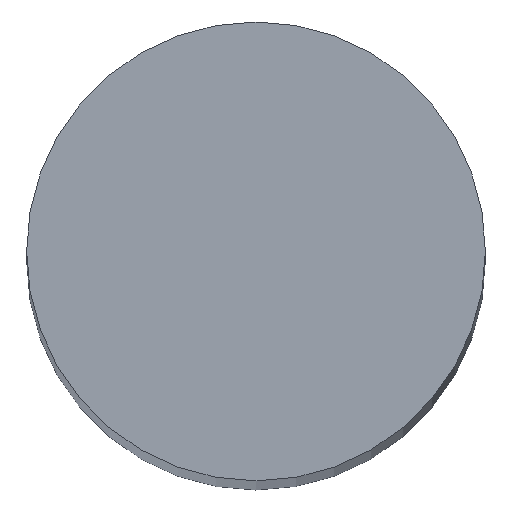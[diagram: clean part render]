
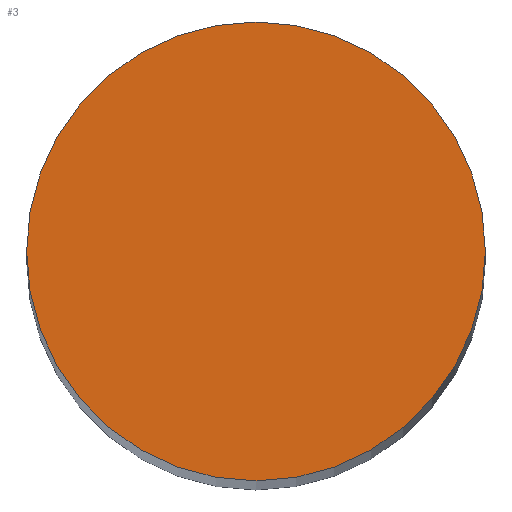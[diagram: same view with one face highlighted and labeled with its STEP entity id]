
A CAD part, top view. The second image highlights one B-rep face of the part: STEP entity #3.
In plain terms, the highlighted planar face has unit normal (0, 0, 1).
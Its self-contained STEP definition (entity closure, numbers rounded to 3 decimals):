
#3 = ADVANCED_FACE ( 'NONE', ( #8 ), #97, .T. ) ;
#8 = FACE_OUTER_BOUND ( 'NONE', #39, .T. ) ;
#9 = CIRCLE ( 'NONE', #58, 6. ) ;
#17 = CIRCLE ( 'NONE', #65, 6. ) ;
#39 = EDGE_LOOP ( 'NONE', ( #43, #46 ) ) ;
#43 = ORIENTED_EDGE ( 'NONE', *, *, #53, .T. ) ;
#46 = ORIENTED_EDGE ( 'NONE', *, *, #74, .T. ) ;
#53 = EDGE_CURVE ( 'NONE', #92, #93, #17, .T. ) ;
#58 = AXIS2_PLACEMENT_3D ( 'NONE', #104, #133, #132 ) ;
#65 = AXIS2_PLACEMENT_3D ( 'NONE', #101, #111, #110 ) ;
#70 = AXIS2_PLACEMENT_3D ( 'NONE', #91, #84, #83 ) ;
#74 = EDGE_CURVE ( 'NONE', #93, #92, #9, .T. ) ;
#83 = DIRECTION ( 'NONE',  ( 1., 0., 0. ) ) ;
#84 = DIRECTION ( 'NONE',  ( 0., 0., 1. ) ) ;
#91 = CARTESIAN_POINT ( 'NONE',  ( 0., 0., 68.5 ) ) ;
#92 = VERTEX_POINT ( 'NONE', #135 ) ;
#93 = VERTEX_POINT ( 'NONE', #134 ) ;
#97 = PLANE ( 'NONE',  #70 ) ;
#101 = CARTESIAN_POINT ( 'NONE',  ( 0., 0., 68.5 ) ) ;
#104 = CARTESIAN_POINT ( 'NONE',  ( 0., 0., 68.5 ) ) ;
#110 = DIRECTION ( 'NONE',  ( 1., 0., 0. ) ) ;
#111 = DIRECTION ( 'NONE',  ( 0., 0., 1. ) ) ;
#132 = DIRECTION ( 'NONE',  ( 1., 0., 0. ) ) ;
#133 = DIRECTION ( 'NONE',  ( 0., 0., 1. ) ) ;
#134 = CARTESIAN_POINT ( 'NONE',  ( 6., 0., 68.5 ) ) ;
#135 = CARTESIAN_POINT ( 'NONE',  ( -6., 0., 68.5 ) ) ;
